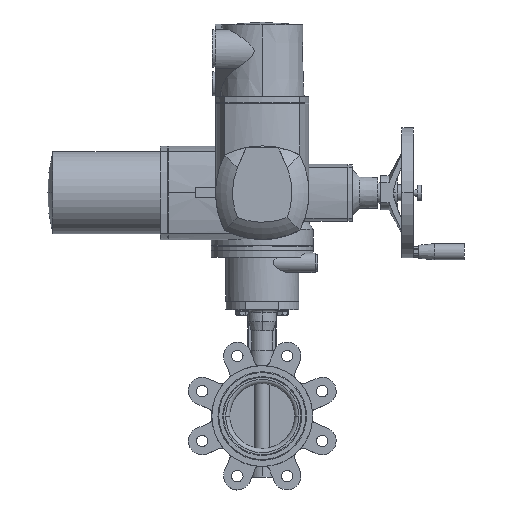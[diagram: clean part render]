
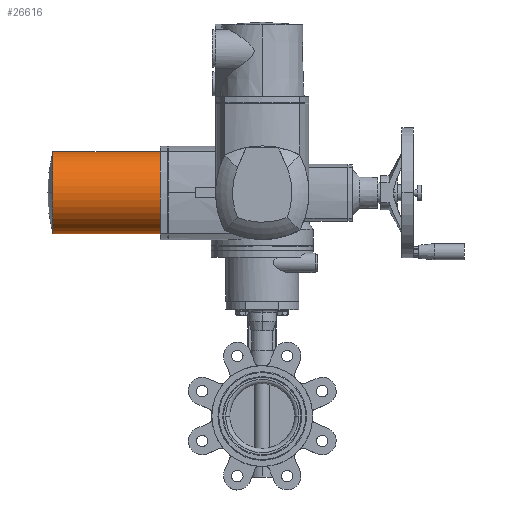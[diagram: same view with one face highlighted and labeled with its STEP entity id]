
A CAD part, top view. The second image highlights one B-rep face of the part: STEP entity #26616.
In plain terms, the highlighted cylindrical face has radius 50.5 mm (diameter 101 mm), a partial arc.
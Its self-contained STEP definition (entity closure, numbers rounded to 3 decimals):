
#644 = CARTESIAN_POINT ( 'NONE',  ( -257.519, -40., 83. ) ) ;
#1944 = VERTEX_POINT ( 'NONE', #16783 ) ;
#2275 = CIRCLE ( 'NONE', #17138, 50.5 ) ;
#2483 = ORIENTED_EDGE ( 'NONE', *, *, #8307, .T. ) ;
#2514 = EDGE_CURVE ( 'NONE', #10166, #1944, #4569, .T. ) ;
#4054 = CARTESIAN_POINT ( 'NONE',  ( -125.5, -40., 83. ) ) ;
#4382 = AXIS2_PLACEMENT_3D ( 'NONE', #7475, #16659, #15083 ) ;
#4534 = EDGE_CURVE ( 'NONE', #14718, #10048, #27054, .T. ) ;
#4569 = LINE ( 'NONE', #27369, #10092 ) ;
#4909 = DIRECTION ( 'NONE',  ( 1., 0., 0. ) ) ;
#5489 = DIRECTION ( 'NONE',  ( 0., 0., 1. ) ) ;
#6772 = DIRECTION ( 'NONE',  ( 1., 0., 0. ) ) ;
#7475 = CARTESIAN_POINT ( 'NONE',  ( -125.5, -40., 133.5 ) ) ;
#8307 = EDGE_CURVE ( 'NONE', #10048, #1944, #12490, .T. ) ;
#8346 = CIRCLE ( 'NONE', #24217, 50.5 ) ;
#10048 = VERTEX_POINT ( 'NONE', #4054 ) ;
#10092 = VECTOR ( 'NONE', #6772, 1000. ) ;
#10166 = VERTEX_POINT ( 'NONE', #28317 ) ;
#12367 = VECTOR ( 'NONE', #20625, 1000. ) ;
#12490 = CIRCLE ( 'NONE', #4382, 50.5 ) ;
#13089 = EDGE_CURVE ( 'NONE', #10166, #13404, #8346, .T. ) ;
#13404 = VERTEX_POINT ( 'NONE', #28399 ) ;
#14718 = VERTEX_POINT ( 'NONE', #644 ) ;
#14729 = AXIS2_PLACEMENT_3D ( 'NONE', #24643, #17888, #26885 ) ;
#15083 = DIRECTION ( 'NONE',  ( 0., 0., -1. ) ) ;
#15487 = DIRECTION ( 'NONE',  ( 1., 0., 0. ) ) ;
#16659 = DIRECTION ( 'NONE',  ( -1., 0., 0. ) ) ;
#16783 = CARTESIAN_POINT ( 'NONE',  ( -125.5, -40., 184. ) ) ;
#17138 = AXIS2_PLACEMENT_3D ( 'NONE', #24393, #15487, #17330 ) ;
#17282 = EDGE_LOOP ( 'NONE', ( #18538, #28546, #24235, #2483, #26854 ) ) ;
#17330 = DIRECTION ( 'NONE',  ( 0., 0., 1. ) ) ;
#17888 = DIRECTION ( 'NONE',  ( 1., 0., 0. ) ) ;
#18538 = ORIENTED_EDGE ( 'NONE', *, *, #13089, .T. ) ;
#18739 = CARTESIAN_POINT ( 'NONE',  ( -257.519, -40., 133.5 ) ) ;
#20625 = DIRECTION ( 'NONE',  ( 1., 0., 0. ) ) ;
#21084 = CYLINDRICAL_SURFACE ( 'NONE', #14729, 50.5 ) ;
#24057 = FACE_OUTER_BOUND ( 'NONE', #17282, .T. ) ;
#24217 = AXIS2_PLACEMENT_3D ( 'NONE', #18739, #4909, #5489 ) ;
#24235 = ORIENTED_EDGE ( 'NONE', *, *, #4534, .T. ) ;
#24393 = CARTESIAN_POINT ( 'NONE',  ( -257.519, -40., 133.5 ) ) ;
#24516 = CARTESIAN_POINT ( 'NONE',  ( -97.021, -40., 83. ) ) ;
#24643 = CARTESIAN_POINT ( 'NONE',  ( -97.021, -40., 133.5 ) ) ;
#26301 = EDGE_CURVE ( 'NONE', #13404, #14718, #2275, .T. ) ;
#26616 = ADVANCED_FACE ( 'NONE', ( #24057 ), #21084, .T. ) ;
#26854 = ORIENTED_EDGE ( 'NONE', *, *, #2514, .F. ) ;
#26885 = DIRECTION ( 'NONE',  ( 0., 0., 1. ) ) ;
#27054 = LINE ( 'NONE', #24516, #12367 ) ;
#27369 = CARTESIAN_POINT ( 'NONE',  ( -97.021, -40., 184. ) ) ;
#28317 = CARTESIAN_POINT ( 'NONE',  ( -257.519, -40., 184. ) ) ;
#28399 = CARTESIAN_POINT ( 'NONE',  ( -257.519, -90.5, 133.5 ) ) ;
#28546 = ORIENTED_EDGE ( 'NONE', *, *, #26301, .T. ) ;
